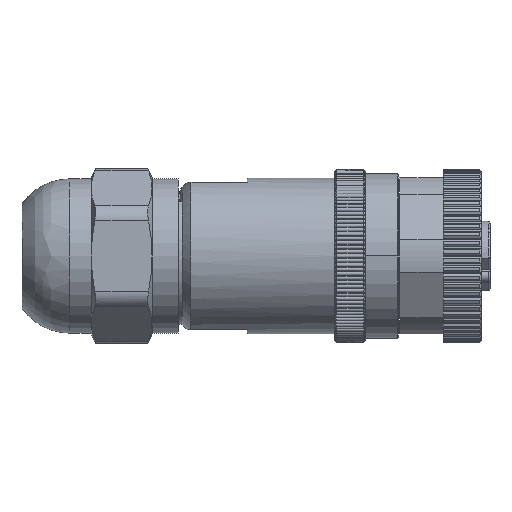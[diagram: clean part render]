
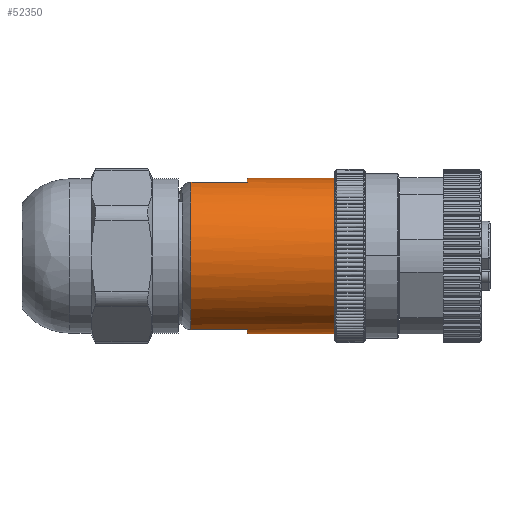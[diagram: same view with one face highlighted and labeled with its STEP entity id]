
A CAD part, left-side view. The second image highlights one B-rep face of the part: STEP entity #52350.
In plain terms, the highlighted cylindrical face has radius 8.95 mm (diameter 17.9 mm), a partial arc.
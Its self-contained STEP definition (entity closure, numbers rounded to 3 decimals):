
#12283=CARTESIAN_POINT('',(0.,4.9,0.));
#12284=DIRECTION('',(0.,-1.,0.));
#12285=DIRECTION('',(0.,0.,1.));
#12286=AXIS2_PLACEMENT_3D('',#12283,#12284,#12285);
#12288=DIRECTION('',(0.,-1.,0.));
#12289=VECTOR('',#12288,10.1);
#12290=CARTESIAN_POINT('',(0.,15.,-8.95));
#12291=LINE('',#12290,#12289);
#12292=DIRECTION('',(0.,-1.,0.));
#12293=VECTOR('',#12292,6.5);
#12294=CARTESIAN_POINT('',(-2.802,21.5,
-8.5));
#12295=LINE('',#12294,#12293);
#12296=DIRECTION('',(0.,1.,0.));
#12297=VECTOR('',#12296,6.5);
#12298=CARTESIAN_POINT('',(-2.802,15.,8.5));
#12299=LINE('',#12298,#12297);
#12300=DIRECTION('',(0.,-1.,0.));
#12301=VECTOR('',#12300,10.1);
#12302=CARTESIAN_POINT('',(0.,15.,8.95));
#12303=LINE('',#12302,#12301);
#14861=CARTESIAN_POINT('',(0.,15.,0.));
#14862=DIRECTION('',(0.,1.,0.));
#14863=DIRECTION('',(0.,0.,-1.));
#14864=AXIS2_PLACEMENT_3D('',#14861,#14862,#14863);
#14917=CARTESIAN_POINT('',(0.,21.5,0.));
#14918=DIRECTION('',(0.,1.,0.));
#14919=DIRECTION('',(-0.313,0.,-0.95));
#14920=AXIS2_PLACEMENT_3D('',#14917,#14918,#14919);
#38442=CARTESIAN_POINT('',(0.,15.,0.));
#38443=DIRECTION('',(0.,1.,0.));
#38444=DIRECTION('',(-0.313,0.,0.95));
#38445=AXIS2_PLACEMENT_3D('',#38442,#38443,#38444);
#38486=CARTESIAN_POINT('',(-2.802,15.,-8.5));
#38488=VERTEX_POINT('',#38486);
#38489=CARTESIAN_POINT('',(-2.802,15.,8.5));
#38491=VERTEX_POINT('',#38489);
#38653=CARTESIAN_POINT('',(0.,15.,-8.95));
#38654=VERTEX_POINT('',#38653);
#38657=CARTESIAN_POINT('',(0.,15.,8.95));
#38658=VERTEX_POINT('',#38657);
#38665=CARTESIAN_POINT('',(-2.802,21.5,
-8.5));
#38666=VERTEX_POINT('',#38665);
#38667=CARTESIAN_POINT('',(-2.802,21.5,
8.5));
#38668=VERTEX_POINT('',#38667);
#42509=CARTESIAN_POINT('',(0.,4.9,-8.95));
#42510=VERTEX_POINT('',#42509);
#42511=CARTESIAN_POINT('',(0.,4.9,8.95));
#42512=VERTEX_POINT('',#42511);
#52330=CARTESIAN_POINT('',(0.,33.5,0.));
#52331=DIRECTION('',(0.,-1.,0.));
#52332=DIRECTION('',(0.,0.,-1.));
#52333=AXIS2_PLACEMENT_3D('',#52330,#52331,#52332);
#52334=CYLINDRICAL_SURFACE('',#52333,8.95);
#52335=ORIENTED_EDGE('',*,*,#49932,.T.);
#52336=ORIENTED_EDGE('',*,*,#51274,.F.);
#52338=ORIENTED_EDGE('',*,*,#52337,.T.);
#52340=ORIENTED_EDGE('',*,*,#52339,.F.);
#52342=ORIENTED_EDGE('',*,*,#52341,.T.);
#52344=ORIENTED_EDGE('',*,*,#52343,.F.);
#52346=ORIENTED_EDGE('',*,*,#52345,.T.);
#52347=ORIENTED_EDGE('',*,*,#51262,.T.);
#52348=EDGE_LOOP('',(#52335,#52336,#52338,#52340,#52342,#52344,#52346,#52347));
#52349=FACE_OUTER_BOUND('',#52348,.F.);
#52350=ADVANCED_FACE('',(#52349),#52334,.T.);
#12287=CIRCLE('',#12286,8.95);
#14865=CIRCLE('',#14864,8.95);
#14921=CIRCLE('',#14920,8.95);
#38446=CIRCLE('',#38445,8.95);
#49932=EDGE_CURVE('',#42512,#42510,#12287,.T.);
#51262=EDGE_CURVE('',#38658,#42512,#12303,.T.);
#51274=EDGE_CURVE('',#38654,#42510,#12291,.T.);
#52337=EDGE_CURVE('',#38654,#38488,#14865,.T.);
#52339=EDGE_CURVE('',#38666,#38488,#12295,.T.);
#52341=EDGE_CURVE('',#38666,#38668,#14921,.T.);
#52343=EDGE_CURVE('',#38491,#38668,#12299,.T.);
#52345=EDGE_CURVE('',#38491,#38658,#38446,.T.);
